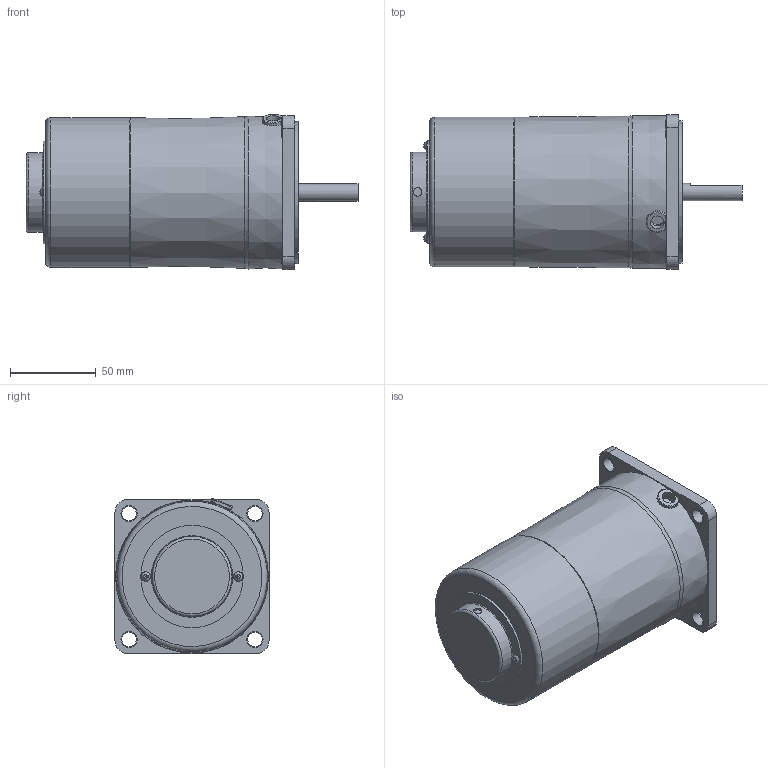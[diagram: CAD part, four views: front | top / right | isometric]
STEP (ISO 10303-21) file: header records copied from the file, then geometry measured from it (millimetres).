
FILE_DESCRIPTION(/* description */ (''),/* implementation_level */ '2;1');
FILE_NAME(/* name */ 'Y:\제품연구개발\3. 도면\3. 고객배포용\3D_홈페이지용\01-1 Standard AC SG Series\05-3 SPEED CONTROL ELECTROMAGNETIC BRAKE MOTOR(ES)\SG9R40_-ES12\SG9R40D-ES.stp',/* time_stamp */ '2023-12-01T09:16:06+09:00',/* author */ ('shyi1037'),/* organization */ (''),/* preprocessor_version */ 'ST-DEVELOPER v18.1',/* originating_system */ 'Autodesk Inventor 2022',/* authorisation */ '');
FILE_SCHEMA (('AUTOMOTIVE_DESIGN { 1 0 10303 214 3 1 1 }'));
Length unit declared in the file: millimetre
Products named in the file (1): S9R40D-ES
Bounding box: 194 x 90 x 90.6 mm (x, y, z)
Volume: 916766.2 mm3; surface area: 64191.1 mm2
Topology: 1 solids, 6 shells, 142 faces, 332 edges, 220 vertices
Faces by surface type: plane 85, cylinder 43, torus 10, cone 2, bspline 2
Full cylindrical faces by diameter (mm): 3 x2, 3.5 x2, 5 x1, 5.6 x2, 8 x1, 8.5 x4, 9.5 x4, 10 x2, 40 x1, 44.7 x1, 46.7 x1, 47.7 x1, 59.9 x1, 83 x1, 86 x1, 87.8 x1
Entity records: 4436 total; most frequent: CARTESIAN_POINT 1023, DIRECTION 694, ORIENTED_EDGE 664, EDGE_CURVE 332, AXIS2_PLACEMENT_3D 258, VERTEX_POINT 220, LINE 178, VECTOR 178
